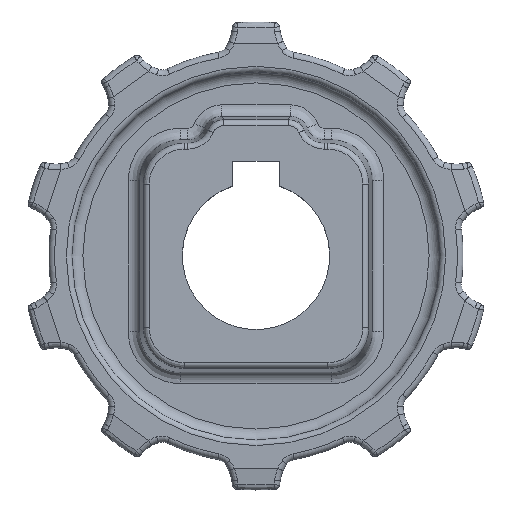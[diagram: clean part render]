
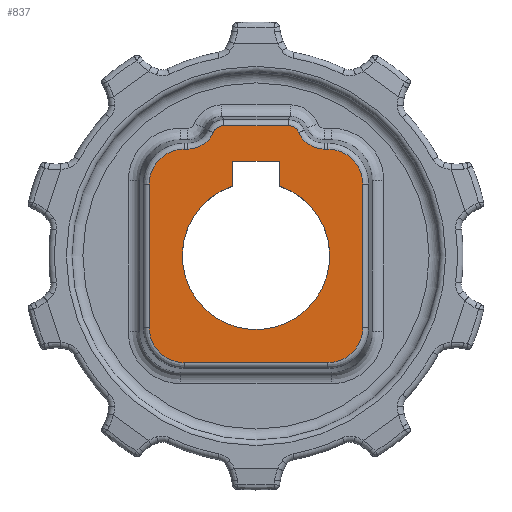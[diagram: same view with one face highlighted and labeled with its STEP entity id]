
A CAD part, top view. The second image highlights one B-rep face of the part: STEP entity #837.
In plain terms, the highlighted planar face has unit normal (0, 0, 1).
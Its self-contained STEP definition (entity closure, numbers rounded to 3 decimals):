
#396=FACE_BOUND('',#1829,.T.);
#397=FACE_BOUND('',#1830,.T.);
#460=ELLIPSE('',#8057,6.046,6.);
#461=ELLIPSE('',#8058,6.046,6.);
#462=ELLIPSE('',#8059,6.046,6.);
#463=ELLIPSE('',#8060,6.046,6.);
#741=PLANE('',#8062);
#837=ADVANCED_FACE('',(#396,#397),#741,.T.);
#1829=EDGE_LOOP('',(#3726,#3727,#3728,#3729,#3730,#3731,#3732,#3733,#3734,
#3735,#3736,#3737,#3738,#3739));
#1830=EDGE_LOOP('',(#3740,#3741,#3742,#3743));
#2396=LINE('',#11836,#2674);
#2397=LINE('',#11840,#2675);
#2398=LINE('',#11844,#2676);
#2399=LINE('',#11848,#2677);
#2400=LINE('',#11852,#2678);
#2401=LINE('',#11870,#2679);
#2402=LINE('',#11885,#2680);
#2403=LINE('',#11887,#2681);
#2404=LINE('',#11889,#2682);
#2674=VECTOR('',#9409,1.);
#2675=VECTOR('',#9412,1.);
#2676=VECTOR('',#9415,1.);
#2677=VECTOR('',#9418,1.);
#2678=VECTOR('',#9421,1.);
#2679=VECTOR('',#9424,1.);
#2680=VECTOR('',#9425,1.);
#2681=VECTOR('',#9426,1.);
#2682=VECTOR('',#9427,1.);
#2889=CIRCLE('',#7940,12.6);
#2996=CIRCLE('',#8056,4.747);
#2997=CIRCLE('',#8061,4.747);
#3726=ORIENTED_EDGE('',*,*,#6711,.T.);
#3727=ORIENTED_EDGE('',*,*,#6712,.T.);
#3728=ORIENTED_EDGE('',*,*,#6713,.T.);
#3729=ORIENTED_EDGE('',*,*,#6714,.T.);
#3730=ORIENTED_EDGE('',*,*,#6715,.T.);
#3731=ORIENTED_EDGE('',*,*,#6716,.T.);
#3732=ORIENTED_EDGE('',*,*,#6717,.T.);
#3733=ORIENTED_EDGE('',*,*,#6718,.T.);
#3734=ORIENTED_EDGE('',*,*,#6719,.T.);
#3735=ORIENTED_EDGE('',*,*,#6720,.T.);
#3736=ORIENTED_EDGE('',*,*,#6721,.T.);
#3737=ORIENTED_EDGE('',*,*,#6722,.T.);
#3738=ORIENTED_EDGE('',*,*,#6723,.T.);
#3739=ORIENTED_EDGE('',*,*,#6724,.T.);
#3740=ORIENTED_EDGE('',*,*,#6574,.T.);
#3741=ORIENTED_EDGE('',*,*,#6725,.T.);
#3742=ORIENTED_EDGE('',*,*,#6726,.T.);
#3743=ORIENTED_EDGE('',*,*,#6727,.T.);
#5850=VERTEX_POINT('',#11561);
#5851=VERTEX_POINT('',#11563);
#5976=VERTEX_POINT('',#11834);
#5977=VERTEX_POINT('',#11835);
#5978=VERTEX_POINT('',#11837);
#5979=VERTEX_POINT('',#11839);
#5980=VERTEX_POINT('',#11841);
#5981=VERTEX_POINT('',#11843);
#5982=VERTEX_POINT('',#11845);
#5983=VERTEX_POINT('',#11847);
#5984=VERTEX_POINT('',#11849);
#5985=VERTEX_POINT('',#11851);
#5986=VERTEX_POINT('',#11853);
#5987=VERTEX_POINT('',#11855);
#5988=VERTEX_POINT('',#11869);
#5989=VERTEX_POINT('',#11871);
#5990=VERTEX_POINT('',#11886);
#5991=VERTEX_POINT('',#11888);
#6574=EDGE_CURVE('',#5851,#5850,#2889,.T.);
#6711=EDGE_CURVE('',#5976,#5977,#2996,.T.);
#6712=EDGE_CURVE('',#5977,#5978,#2396,.T.);
#6713=EDGE_CURVE('',#5978,#5979,#460,.T.);
#6714=EDGE_CURVE('',#5979,#5980,#2397,.T.);
#6715=EDGE_CURVE('',#5980,#5981,#461,.T.);
#6716=EDGE_CURVE('',#5981,#5982,#2398,.T.);
#6717=EDGE_CURVE('',#5982,#5983,#462,.T.);
#6718=EDGE_CURVE('',#5983,#5984,#2399,.T.);
#6719=EDGE_CURVE('',#5984,#5985,#463,.T.);
#6720=EDGE_CURVE('',#5985,#5986,#2400,.T.);
#6721=EDGE_CURVE('',#5986,#5987,#2997,.T.);
#6722=EDGE_CURVE('',#5987,#5988,#7553,.T.);
#6723=EDGE_CURVE('',#5988,#5989,#2401,.T.);
#6724=EDGE_CURVE('',#5989,#5976,#7554,.T.);
#6725=EDGE_CURVE('',#5850,#5990,#2402,.T.);
#6726=EDGE_CURVE('',#5990,#5991,#2403,.T.);
#6727=EDGE_CURVE('',#5991,#5851,#2404,.T.);
#7553=B_SPLINE_CURVE_WITH_KNOTS('',3,(#11856,#11857,#11858,#11859,#11860,
#11861,#11862,#11863,#11864,#11865,#11866,#11867,#11868),.UNSPECIFIED.,
 .F.,.F.,(4,3,3,3,4),(0.,0.293,0.586,0.879,
1.),.UNSPECIFIED.);
#7554=B_SPLINE_CURVE_WITH_KNOTS('',3,(#11872,#11873,#11874,#11875,#11876,
#11877,#11878,#11879,#11880,#11881,#11882,#11883,#11884),.UNSPECIFIED.,
 .F.,.F.,(4,3,3,3,4),(0.,0.293,0.586,0.879,
1.),.UNSPECIFIED.);
#7940=AXIS2_PLACEMENT_3D('',#11562,#9145,#9146);
#8056=AXIS2_PLACEMENT_3D('',#11833,#9407,#9408);
#8057=AXIS2_PLACEMENT_3D('',#11838,#9410,#9411);
#8058=AXIS2_PLACEMENT_3D('',#11842,#9413,#9414);
#8059=AXIS2_PLACEMENT_3D('',#11846,#9416,#9417);
#8060=AXIS2_PLACEMENT_3D('',#11850,#9419,#9420);
#8061=AXIS2_PLACEMENT_3D('',#11854,#9422,#9423);
#8062=AXIS2_PLACEMENT_3D('',#11890,#9428,#9429);
#9145=DIRECTION('',(0.,0.,-1.));
#9146=DIRECTION('',(1.,0.,0.));
#9407=DIRECTION('',(0.,0.,-1.));
#9408=DIRECTION('',(1.,0.,0.));
#9409=DIRECTION('',(-1.,0.,0.));
#9410=DIRECTION('',(0.,0.,1.));
#9411=DIRECTION('',(0.707,-0.707,0.));
#9412=DIRECTION('',(0.,-1.,0.));
#9413=DIRECTION('',(0.,0.,1.));
#9414=DIRECTION('',(0.707,0.707,0.));
#9415=DIRECTION('',(1.,0.,0.));
#9416=DIRECTION('',(0.,0.,1.));
#9417=DIRECTION('',(-0.707,0.707,0.));
#9418=DIRECTION('',(0.,1.,0.));
#9419=DIRECTION('',(0.,0.,1.));
#9420=DIRECTION('',(-0.707,-0.707,0.));
#9421=DIRECTION('',(-1.,0.,0.));
#9422=DIRECTION('',(0.,0.,-1.));
#9423=DIRECTION('',(1.,0.,0.));
#9424=DIRECTION('',(-1.,0.,0.));
#9425=DIRECTION('',(0.,1.,0.));
#9426=DIRECTION('',(1.,0.,0.));
#9427=DIRECTION('',(0.,-1.,0.));
#9428=DIRECTION('',(0.,0.,1.));
#9429=DIRECTION('',(1.,0.,0.));
#11561=CARTESIAN_POINT('',(-4.,11.948,12.5));
#11562=CARTESIAN_POINT('',(0.,0.,
12.5));
#11563=CARTESIAN_POINT('',(4.,11.948,12.5));
#11833=CARTESIAN_POINT('',(-11.657,23.,12.5));
#11834=CARTESIAN_POINT('',(-7.319,21.07,12.5));
#11835=CARTESIAN_POINT('',(-11.657,18.253,12.5));
#11836=CARTESIAN_POINT('',(0.,18.253,12.5));
#11837=CARTESIAN_POINT('',(-12.275,18.253,12.5));
#11838=CARTESIAN_POINT('',(-12.23,12.23,12.5));
#11839=CARTESIAN_POINT('',(-18.253,12.275,12.5));
#11840=CARTESIAN_POINT('',(-18.253,0.,12.5));
#11841=CARTESIAN_POINT('',(-18.253,-12.275,12.5));
#11842=CARTESIAN_POINT('',(-12.23,-12.23,12.5));
#11843=CARTESIAN_POINT('',(-12.275,-18.253,12.5));
#11844=CARTESIAN_POINT('',(0.,-18.253,12.5));
#11845=CARTESIAN_POINT('',(12.275,-18.253,12.5));
#11846=CARTESIAN_POINT('',(12.23,-12.23,12.5));
#11847=CARTESIAN_POINT('',(18.253,-12.275,12.5));
#11848=CARTESIAN_POINT('',(18.253,0.,12.5));
#11849=CARTESIAN_POINT('',(18.253,12.275,12.5));
#11850=CARTESIAN_POINT('',(12.23,12.23,12.5));
#11851=CARTESIAN_POINT('',(12.275,18.253,12.5));
#11852=CARTESIAN_POINT('',(0.,18.253,12.5));
#11853=CARTESIAN_POINT('',(11.657,18.253,12.5));
#11854=CARTESIAN_POINT('',(11.657,23.,12.5));
#11855=CARTESIAN_POINT('',(7.319,21.07,12.5));
#11856=CARTESIAN_POINT('',(7.319,21.07,12.5));
#11857=CARTESIAN_POINT('',(7.229,21.274,12.5));
#11858=CARTESIAN_POINT('',(7.102,21.465,12.5));
#11859=CARTESIAN_POINT('',(6.949,21.627,12.5));
#11860=CARTESIAN_POINT('',(6.796,21.79,12.5));
#11861=CARTESIAN_POINT('',(6.613,21.928,12.5));
#11862=CARTESIAN_POINT('',(6.414,22.03,12.5));
#11863=CARTESIAN_POINT('',(6.217,22.132,12.5));
#11864=CARTESIAN_POINT('',(5.998,22.202,12.5));
#11865=CARTESIAN_POINT('',(5.778,22.233,12.5));
#11866=CARTESIAN_POINT('',(5.686,22.246,12.5));
#11867=CARTESIAN_POINT('',(5.592,22.253,12.5));
#11868=CARTESIAN_POINT('',(5.499,22.253,12.5));
#11869=CARTESIAN_POINT('',(5.499,22.253,12.5));
#11870=CARTESIAN_POINT('',(-5.447,22.253,12.5));
#11871=CARTESIAN_POINT('',(-5.499,22.253,12.5));
#11872=CARTESIAN_POINT('',(-5.499,22.253,12.5));
#11873=CARTESIAN_POINT('',(-5.722,22.253,12.5));
#11874=CARTESIAN_POINT('',(-5.948,22.214,12.5));
#11875=CARTESIAN_POINT('',(-6.159,22.14,12.5));
#11876=CARTESIAN_POINT('',(-6.369,22.067,12.5));
#11877=CARTESIAN_POINT('',(-6.57,21.955,12.5));
#11878=CARTESIAN_POINT('',(-6.744,21.816,12.5));
#11879=CARTESIAN_POINT('',(-6.918,21.677,12.5));
#11880=CARTESIAN_POINT('',(-7.07,21.506,12.5));
#11881=CARTESIAN_POINT('',(-7.188,21.317,12.5));
#11882=CARTESIAN_POINT('',(-7.238,21.238,12.5));
#11883=CARTESIAN_POINT('',(-7.281,21.155,12.5));
#11884=CARTESIAN_POINT('',(-7.319,21.07,12.5));
#11885=CARTESIAN_POINT('',(-4.,0.,12.5));
#11886=CARTESIAN_POINT('',(-4.,16.2,12.5));
#11887=CARTESIAN_POINT('',(0.,16.2,12.5));
#11888=CARTESIAN_POINT('',(4.,16.2,12.5));
#11889=CARTESIAN_POINT('',(4.,0.,12.5));
#11890=CARTESIAN_POINT('',(0.,0.,12.5));
